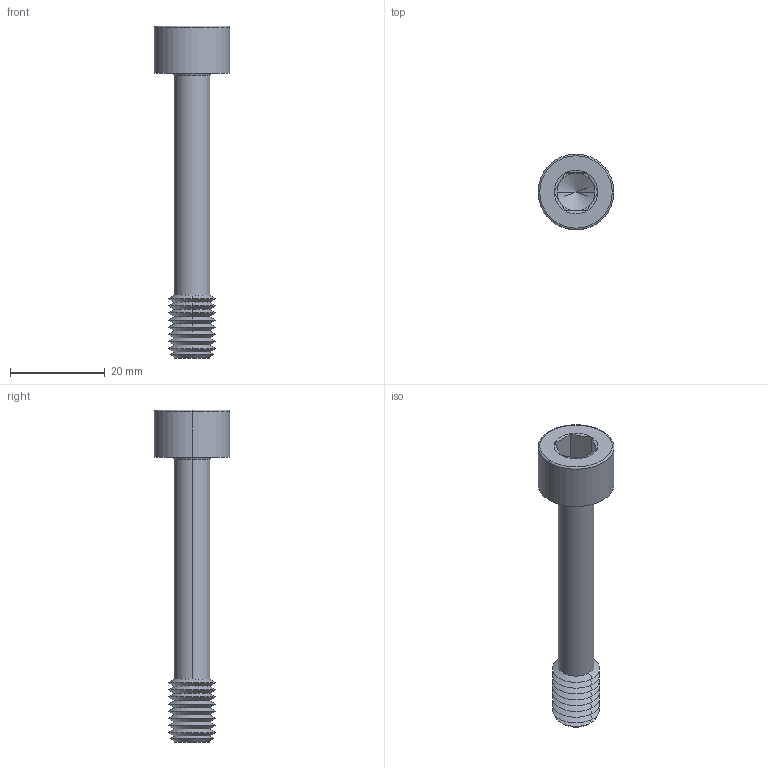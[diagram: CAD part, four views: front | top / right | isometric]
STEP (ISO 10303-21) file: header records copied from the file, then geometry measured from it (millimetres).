
FILE_DESCRIPTION (( 'STEP AP203' ), '1' );
FILE_NAME ('P0154.100-060-BL.step', '2024-06-17T11:35:09', ( '' ), ( '' ), 'SwSTEP 2.0', 'SolidWorks 2019', '' );
FILE_SCHEMA (( 'CONFIG_CONTROL_DESIGN' ));
Length unit declared in the file: millimetre
Products named in the file (1): P0154.100-060-BL
Bounding box: 16 x 16 x 70 mm (x, y, z)
Volume: 4377.5 mm3; surface area: 2928.4 mm2
Topology: 1 solids, 1 shells, 67 faces, 136 edges, 71 vertices
Faces by surface type: cone 44, plane 15, torus 4, cylinder 4
Entity records: 1791 total; most frequent: DIRECTION 332, CARTESIAN_POINT 303, ORIENTED_EDGE 268, AXIS2_PLACEMENT_3D 136, EDGE_CURVE 134, VERTEX_POINT 71, EDGE_LOOP 69, CIRCLE 68
